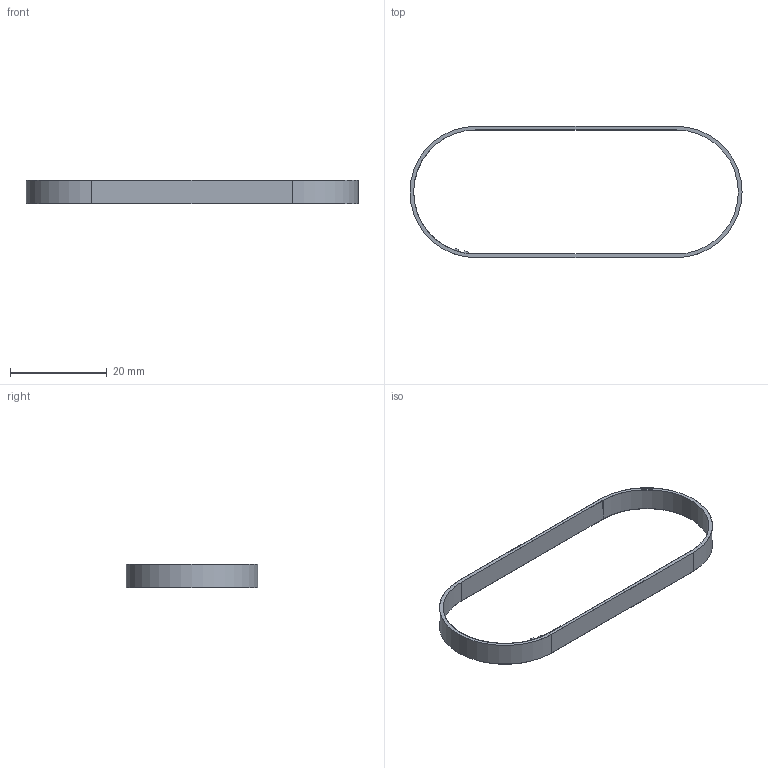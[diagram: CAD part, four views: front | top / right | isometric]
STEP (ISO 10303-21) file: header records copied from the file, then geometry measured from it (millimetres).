
FILE_DESCRIPTION((''),'2;1');
FILE_NAME('44716','2011-01-23T',('carefree'),(''),'PRO/ENGINEER BY PARAMETRIC TECHNOLOGY CORPORATION, 2005030','PRO/ENGINEER BY PARAMETRIC TECHNOLOGY CORPORATION, 2005030','');
FILE_SCHEMA(('CONFIG_CONTROL_DESIGN'));
Length unit declared in the file: inch
Products named in the file (1): 44716
Bounding box: 68.6 x 27.15 x 4.76 mm (x, y, z)
Volume: 49.9 mm3; surface area: 4415.2 mm2
Topology: 1 solids, 3 shells, 32 faces, 84 edges, 56 vertices
Faces by surface type: plane 20, cylinder 12
Entity records: 1040 total; most frequent: DIRECTION 174, CARTESIAN_POINT 173, ORIENTED_EDGE 160, EDGE_CURVE 84, VECTOR 60, LINE 60, AXIS2_PLACEMENT_3D 57, VERTEX_POINT 56
